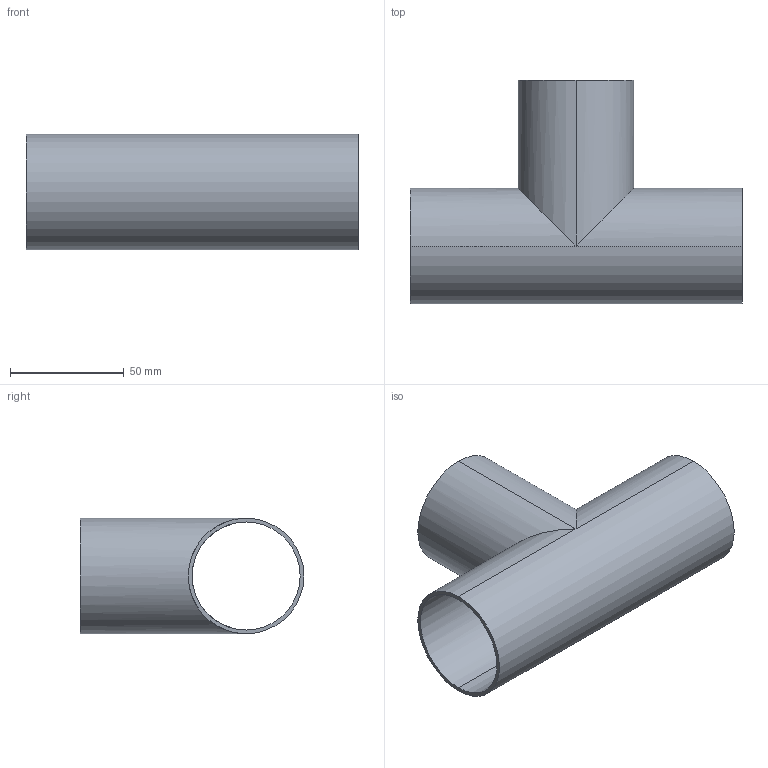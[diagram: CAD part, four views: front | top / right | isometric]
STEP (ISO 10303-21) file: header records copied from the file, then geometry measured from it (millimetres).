
FILE_DESCRIPTION (( 'STEP AP214' ), '1' );
FILE_NAME ('TE7WWW6L2.0-...STEP', '2016-05-23T06:23:42', ( 'eran' ), ( '' ), 'SwSTEP 2.0', 'SolidWorks 2016', '' );
FILE_SCHEMA (( 'AUTOMOTIVE_DESIGN' ));
Length unit declared in the file: millimetre
Products named in the file (1): TE7WWW6L2.0-..
Bounding box: 146 x 98.4 x 50.8 mm (x, y, z)
Volume: 47820.9 mm3; surface area: 58721.8 mm2
Topology: 1 solids, 1 shells, 13 faces, 28 edges, 16 vertices
Faces by surface type: cylinder 10, plane 3
Entity records: 392 total; most frequent: CARTESIAN_POINT 70, DIRECTION 64, ORIENTED_EDGE 56, EDGE_CURVE 28, AXIS2_PLACEMENT_3D 26, EDGE_LOOP 16, VERTEX_POINT 16, ADVANCED_FACE 13
